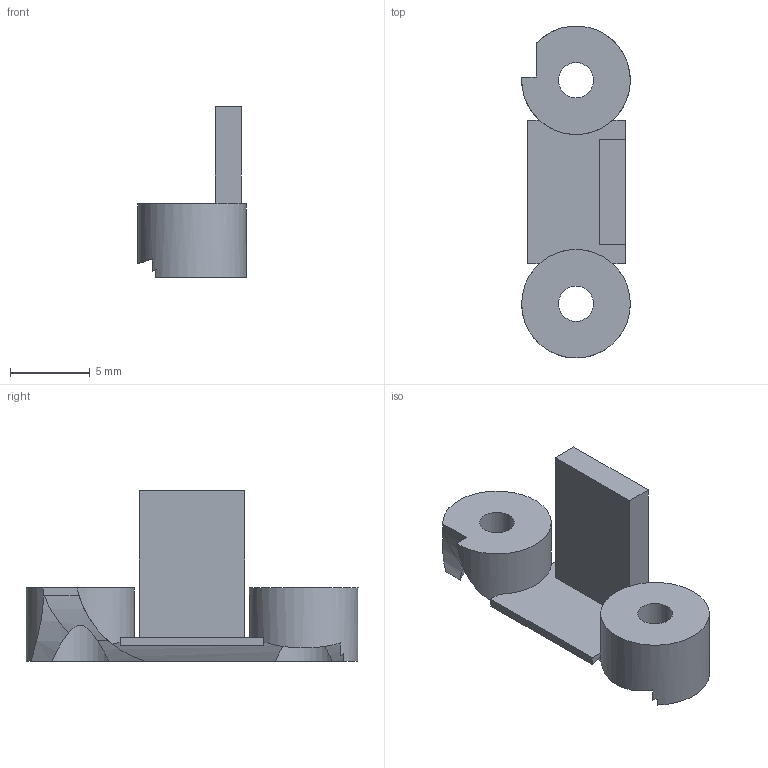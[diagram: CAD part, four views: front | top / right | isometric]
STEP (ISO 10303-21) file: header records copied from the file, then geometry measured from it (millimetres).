
FILE_DESCRIPTION(('Open CASCADE Model'),'2;1');
FILE_NAME('Open CASCADE Shape Model','2026-09-16T15:34:22',('Author'),( 'Open CASCADE'),'Open CASCADE STEP processor 7.7','Open CASCADE 7.7' ,'Unknown');
FILE_SCHEMA(('AUTOMOTIVE_DESIGN { 1 0 10303 214 1 1 1 1 }'));
Length unit declared in the file: millimetre
Products named in the file (1): SOLID
Bounding box: 6.8 x 20.8 x 10.7 mm (x, y, z)
Volume: 372.7 mm3; surface area: 672.9 mm2
Topology: 1 solids, 1 shells, 33 faces, 92 edges, 61 vertices
Faces by surface type: plane 20, cylinder 12, bspline 1
Full cylindrical faces by diameter (mm): 2.2 x2, 4.6 x2, 6.8 x1
Entity records: 3277 total; most frequent: CARTESIAN_POINT 1524, DIRECTION 291, ORIENTED_EDGE 184, PCURVE 184, DEFINITIONAL_REPRESENTATION 184, LINE 164, VECTOR 164, EDGE_CURVE 92
